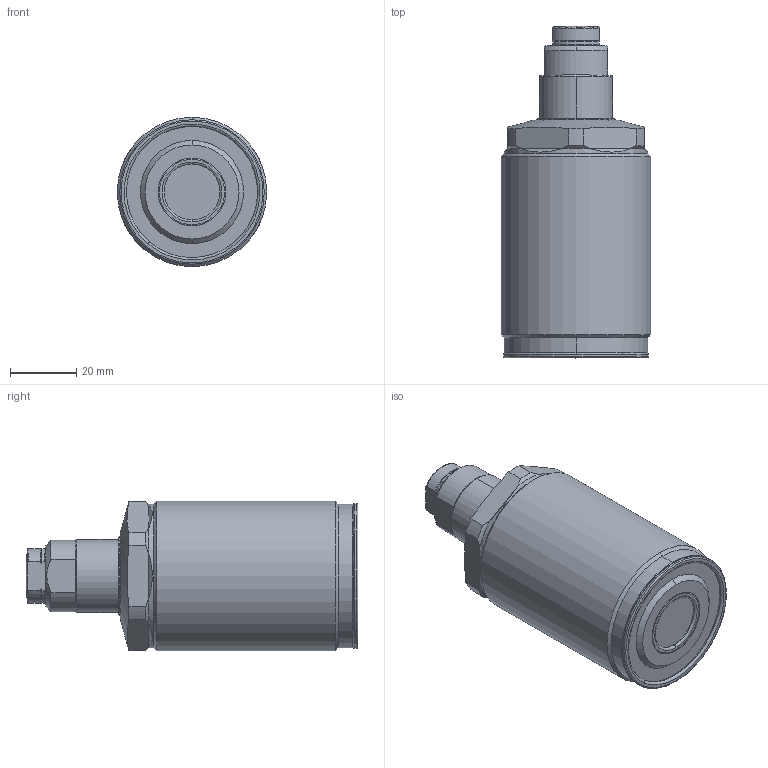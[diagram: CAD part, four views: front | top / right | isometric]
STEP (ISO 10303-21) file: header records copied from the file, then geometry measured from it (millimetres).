
FILE_DESCRIPTION(/* description */ (''),/* implementation_level */ '2;1');
FILE_NAME(/* name */ 'GSS06.stp',/* time_stamp */ '2025-01-10T09:19:20+08:00',/* author */ (''),/* organization */ (''),/* preprocessor_version */ 'ST-DEVELOPER v16.7',/* originating_system */ 'SIEMENS PLM Software NX 12.0',/* authorisation */ '');
FILE_SCHEMA (('AUTOMOTIVE_DESIGN { 1 0 10303 214 3 1 1 1 }'));
Length unit declared in the file: millimetre
Products named in the file (7): TNC0403_ContactBolt_M12108; AS012109; GSS06-001; GSS06-04; GSS06-02; GSS06-03; GSS06_stp
Assembly tree (6 placements, depth 3):
  GSS06_stp
    GSS06-02
    GSS06-03
      AS012109
      TNC0403_ContactBolt_M12108
    GSS06-04
    GSS06-001
Bounding box: 45 x 99.9 x 45 mm (x, y, z)
Volume: 117456.7 mm3; surface area: 17768.9 mm2
Topology: 5 solids, 5 shells, 141 faces, 312 edges, 188 vertices
Faces by surface type: cylinder 43, torus 34, plane 34, cone 28, sphere 2
Full cylindrical faces by diameter (mm): 43.2 x1, 45 x1
Entity records: 4227 total; most frequent: CARTESIAN_POINT 882, DIRECTION 751, ORIENTED_EDGE 616, AXIS2_PLACEMENT_3D 335, EDGE_CURVE 308, VERTEX_POINT 188, CIRCLE 181, EDGE_LOOP 158
